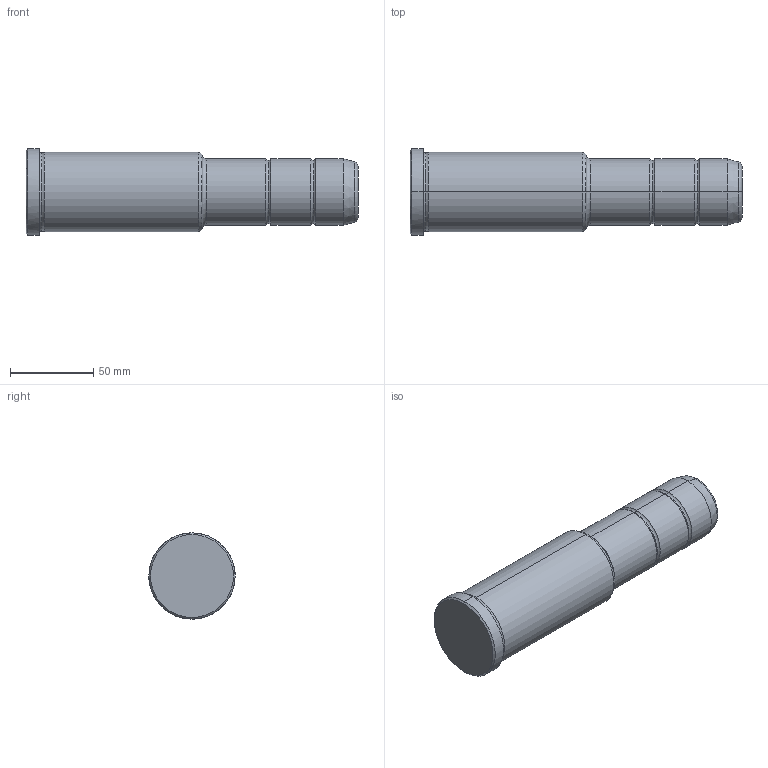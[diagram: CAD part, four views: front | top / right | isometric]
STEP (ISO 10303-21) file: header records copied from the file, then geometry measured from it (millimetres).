
FILE_DESCRIPTION(('CATIA V5 STEP Exchange'),'2;1');
FILE_NAME('C:\Users\Utente\Desktop\IO LAVORO\3D X SITO CF\X SITO\PLASTICA\351\351-40X106X200.stp','2021-10-07T14:01:05+00:00',('none'),('none'),'CATIA Version 5 Release 20 GA (IN-10)','CATIA V5 STEP AP203','none');
FILE_SCHEMA(('CONFIG_CONTROL_DESIGN'));
Length unit declared in the file: millimetre
Products named in the file (1): 351-40X106X200
Bounding box: 200 x 52 x 52 mm (x, y, z)
Volume: 310266.4 mm3; surface area: 31592.7 mm2
Topology: 1 solids, 1 shells, 36 faces, 102 edges, 70 vertices
Faces by surface type: torus 16, cylinder 10, cone 6, plane 4
Entity records: 1292 total; most frequent: CARTESIAN_POINT 321, ORIENTED_EDGE 204, DIRECTION 166, AXIS2_PLACEMENT_3D 115, EDGE_CURVE 102, CIRCLE 78, VERTEX_POINT 70, EDGE_LOOP 38
